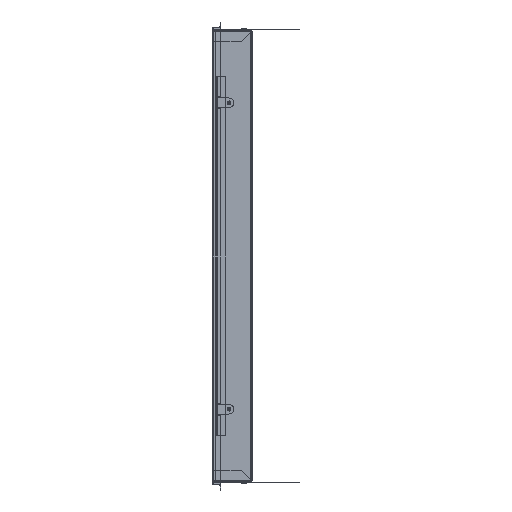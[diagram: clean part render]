
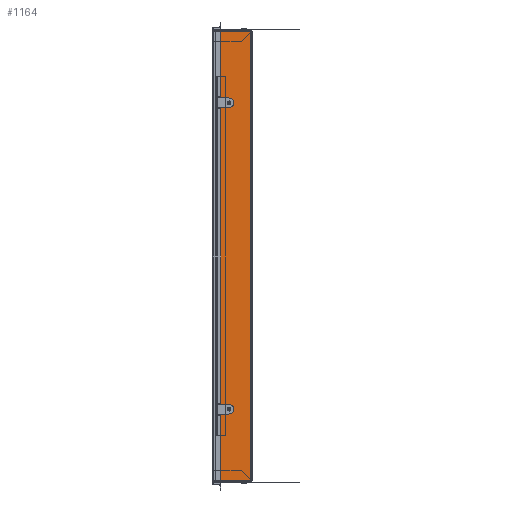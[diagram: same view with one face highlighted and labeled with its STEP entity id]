
A CAD part, left-side view. The second image highlights one B-rep face of the part: STEP entity #1164.
In plain terms, the highlighted planar face has unit normal (-1, 0, 0).
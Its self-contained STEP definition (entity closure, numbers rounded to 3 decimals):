
#1164=ADVANCED_FACE('',(#4077,#4079,#4081),#4083,.F.);
#4077=FACE_BOUND('',#4078,.T.);
#4078=EDGE_LOOP('',(#6941,#6942,#6943,#6944));
#4079=FACE_BOUND('',#4080,.T.);
#4080=EDGE_LOOP('',(#6945));
#4081=FACE_BOUND('',#4082,.T.);
#4082=EDGE_LOOP('',(#6946));
#4083=PLANE('',#4084);
#4084=AXIS2_PLACEMENT_3D('',#4085,#4086,#4087);
#4085=CARTESIAN_POINT('',(-285.9,-284.648,0.));
#4086=DIRECTION('',(1.,0.,0.));
#4087=DIRECTION('',(0.,-1.,0.));
#6941=ORIENTED_EDGE('',*,*,#8121,.T.);
#6942=ORIENTED_EDGE('',*,*,#8157,.T.);
#6943=ORIENTED_EDGE('',*,*,#8158,.F.);
#6944=ORIENTED_EDGE('',*,*,#8159,.T.);
#6945=ORIENTED_EDGE('',*,*,#8160,.T.);
#6946=ORIENTED_EDGE('',*,*,#8161,.T.);
#8121=EDGE_CURVE('',#9345,#9346,#9347,.T.);
#8157=EDGE_CURVE('',#9346,#9401,#9402,.T.);
#8158=EDGE_CURVE('',#9403,#9401,#9404,.T.);
#8159=EDGE_CURVE('',#9403,#9345,#9405,.T.);
#8160=EDGE_CURVE('',#9406,#9406,#9407,.T.);
#8161=EDGE_CURVE('',#9408,#9408,#9409,.T.);
#9345=VERTEX_POINT('',#12149);
#9346=VERTEX_POINT('',#12150);
#9347=LINE('',#12151,#12152);
#9401=VERTEX_POINT('',#12417);
#9402=LINE('',#12418,#12419);
#9403=VERTEX_POINT('',#12421);
#9404=LINE('',#12422,#12423);
#9405=LINE('',#12425,#12426);
#9406=VERTEX_POINT('',#12428);
#9407=CIRCLE('',#12429,1.25);
#9408=VERTEX_POINT('',#12433);
#9409=CIRCLE('',#12434,1.25);
#12149=CARTESIAN_POINT('',(-285.9,1.6,-283.329));
#12150=CARTESIAN_POINT('',(-285.9,1.6,283.329));
#12151=CARTESIAN_POINT('',(-285.9,1.6,-283.329));
#12152=VECTOR('',#12153,1.);
#12153=DIRECTION('',(0.,0.,1.));
#12417=CARTESIAN_POINT('',(-285.9,49.4,283.329));
#12418=CARTESIAN_POINT('',(-285.9,1.6,283.329));
#12419=VECTOR('',#12420,1.);
#12420=DIRECTION('',(0.,1.,0.));
#12421=CARTESIAN_POINT('',(-285.9,49.4,-283.329));
#12422=CARTESIAN_POINT('',(-285.9,49.4,-283.329));
#12423=VECTOR('',#12424,1.);
#12424=DIRECTION('',(0.,0.,1.));
#12425=CARTESIAN_POINT('',(-285.9,49.4,-283.329));
#12426=VECTOR('',#12427,1.);
#12427=DIRECTION('',(0.,-1.,0.));
#12428=CARTESIAN_POINT('',(-285.9,29.,-191.25));
#12429=AXIS2_PLACEMENT_3D('',#12430,#12431,#12432);
#12430=CARTESIAN_POINT('',(-285.9,29.,-192.5));
#12431=DIRECTION('',(1.,0.,0.));
#12432=DIRECTION('',(-0.,0.,1.));
#12433=CARTESIAN_POINT('',(-285.9,29.,193.75));
#12434=AXIS2_PLACEMENT_3D('',#12435,#12436,#12437);
#12435=CARTESIAN_POINT('',(-285.9,29.,192.5));
#12436=DIRECTION('',(1.,0.,0.));
#12437=DIRECTION('',(-0.,0.,1.));
